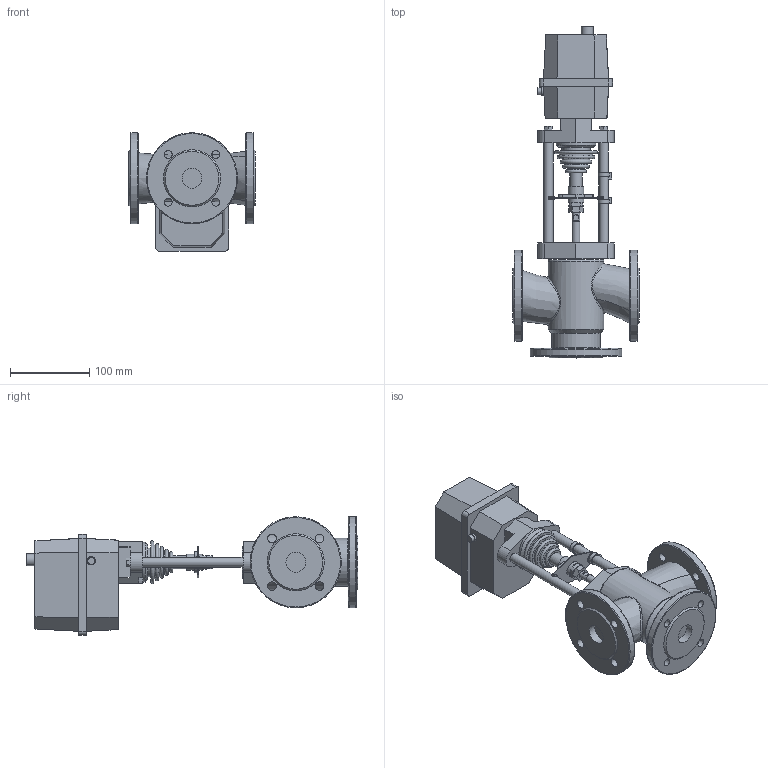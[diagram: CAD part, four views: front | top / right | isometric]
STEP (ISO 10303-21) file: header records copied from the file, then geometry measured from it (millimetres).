
FILE_DESCRIPTION(/* description */ (''),/* implementation_level */ '2;1');
FILE_NAME(/* name */ 'D:\Работа\work by\2017.01.17. клапаны для КПСР 3-хходоввые\Готовые файлы\ST mini\iges\ду 25.stp',/* time_stamp */ '2017-02-19T17:07:48+03:00',/* author */ ('Admin'),/* organization */ ('unknown'),/* preprocessor_version */ 'ST-DEVELOPER v16.1',/* originating_system */ 'Autodesk Inventor 2016',/* authorisation */ '');
FILE_SCHEMA (('AUTOMOTIVE_DESIGN { 1 0 10303 214 3 1 1 }'));
Length unit declared in the file: millimetre
Products named in the file (1): ду 25
Bounding box: 160 x 418.86 x 149.61 mm (x, y, z)
Volume: 2124977.3 mm3; surface area: 213092.1 mm2
Topology: 1 solids, 2 shells, 242 faces, 592 edges, 387 vertices
Faces by surface type: plane 151, cylinder 61, torus 15, bspline 8, cone 7
Full cylindrical faces by diameter (mm): 8.5 x1, 8.89 x1, 9.6 x1, 10 x6, 10.272 x1, 11 x8, 12 x4, 14.958 x1, 16 x1, 20 x2, 22.287 x1, 25 x3, 29.215 x1, 36 x1, 36.144 x1, 40 x1, 43.072 x1, 50 x1, 60.8 x1, 70.4 x1, 115 x3
Entity records: 8271 total; most frequent: CARTESIAN_POINT 2715, DIRECTION 1136, ORIENTED_EDGE 1024, EDGE_CURVE 512, AXIS2_PLACEMENT_3D 409, EDGE_LOOP 376, VERTEX_POINT 372, LINE 318
